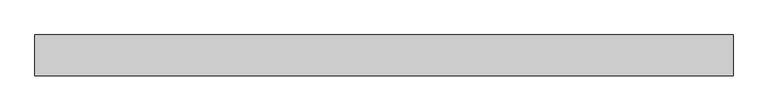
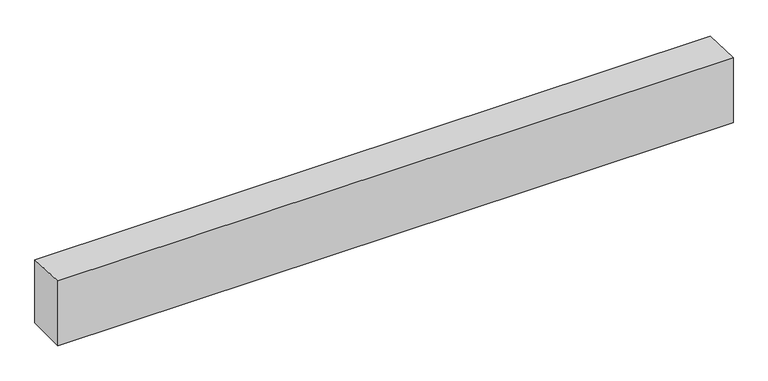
"""IFC4 building model written with IfcOpenShell, lengths in millimetres: proxy geometry, Tête de mur C0a : tête de mur."""

from ifc_helpers import new_model, si_unit, frame, origin, place, context, project, spatial, polyline, outline, extrude, source, transform, mapped, element, save


def generic_models_be09ce97(model_context):
    return source(origin(), model_context, "Body", "SweptSolid", [
        extrude(outline(polyline([(-2700.0, 5208.0), (-2700.0, 4871.0), (-2900.0, 4871.0), (-2900.0, 5216.0), (-2700.0, 5208.0)])), frame((-10280.0, 0.0, 0.0), z_axis=(1.0, 0.0, 0.0), x_axis=(0.0, 1.0, 0.0)), (0.0, 0.0, 1.0), 3400.0),
    ])


if __name__ == "__main__":
    model = new_model("IFC4")
    model_context = context("Model", 3, world=origin())
    ifc_project = project(units=[si_unit("LENGTHUNIT", "METRE", prefix="MILLI")], contexts=[model_context])
    site = spatial("IfcSite", under=ifc_project)
    building = spatial("IfcBuilding", under=site)
    placement = place(None, origin())
    generic_models_shape = generic_models_be09ce97(model_context)
    element("IfcBuildingElementProxy", 1, Name="Tête de mur C0a : tête de mur", ObjectType="Tête de mur C0a : tête de mur", at=placement, inside=building, context=model_context, shape_type="MappedRepresentation", body=[
        mapped(generic_models_shape, transform((0.0, 0.0, 0.0), x_axis=(1.0, 0.0, 0.0), y_axis=(0.0, 1.0, 0.0), z_axis=(0.0, 0.0, 1.0))),
    ])
    save(model, "model.ifc")
